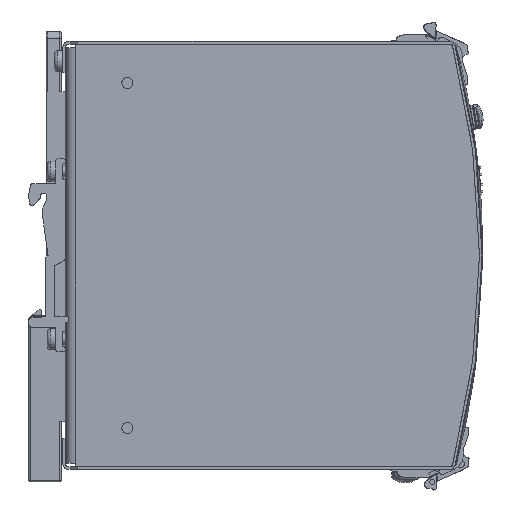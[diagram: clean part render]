
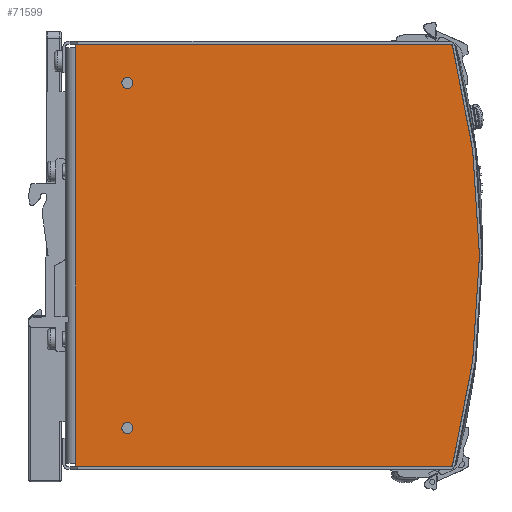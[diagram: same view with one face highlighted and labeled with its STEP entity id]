
A CAD part, front view. The second image highlights one B-rep face of the part: STEP entity #71599.
In plain terms, the highlighted planar face has unit normal (0, -1, 0).
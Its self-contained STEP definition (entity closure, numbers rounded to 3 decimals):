
#1791=FACE_BOUND('',#9002,.T.);
#1792=FACE_BOUND('',#9003,.T.);
#2463=PLANE('',#75574);
#5115=FACE_OUTER_BOUND('',#9001,.T.);
#9001=EDGE_LOOP('',(#48670,#48671,#48672,#48673,#48674,#48675));
#9002=EDGE_LOOP('',(#48676));
#9003=EDGE_LOOP('',(#48677));
#13512=CIRCLE('',#75551,1.6);
#13514=CIRCLE('',#75554,1.6);
#13515=CIRCLE('',#75565,240.);
#15336=LINE('',#100584,#23060);
#15360=LINE('',#100661,#23084);
#15369=LINE('',#100677,#23093);
#15373=LINE('',#100686,#23097);
#15381=LINE('',#100701,#23105);
#23060=VECTOR('',#81312,120.3);
#23084=VECTOR('',#81390,1.);
#23093=VECTOR('',#81405,1.);
#23097=VECTOR('',#81413,109.079);
#23105=VECTOR('',#81425,109.079);
#30787=VERTEX_POINT('',#100581);
#30788=VERTEX_POINT('',#100583);
#30810=VERTEX_POINT('',#100647);
#30812=VERTEX_POINT('',#100652);
#30814=VERTEX_POINT('',#100660);
#30818=VERTEX_POINT('',#100675);
#30821=VERTEX_POINT('',#100685);
#30826=VERTEX_POINT('',#100699);
#37884=EDGE_CURVE('',#30788,#30787,#15336,.T.);
#37915=EDGE_CURVE('',#30810,#30810,#13512,.T.);
#37917=EDGE_CURVE('',#30812,#30812,#13514,.T.);
#37921=EDGE_CURVE('',#30814,#30788,#15360,.T.);
#37930=EDGE_CURVE('',#30787,#30818,#15369,.T.);
#37934=EDGE_CURVE('',#30821,#30814,#15373,.T.);
#37942=EDGE_CURVE('',#30826,#30818,#15381,.T.);
#37943=EDGE_CURVE('',#30826,#30821,#13515,.T.);
#48670=ORIENTED_EDGE('',*,*,#37943,.T.);
#48671=ORIENTED_EDGE('',*,*,#37934,.T.);
#48672=ORIENTED_EDGE('',*,*,#37921,.T.);
#48673=ORIENTED_EDGE('',*,*,#37884,.T.);
#48674=ORIENTED_EDGE('',*,*,#37930,.T.);
#48675=ORIENTED_EDGE('',*,*,#37942,.F.);
#48676=ORIENTED_EDGE('',*,*,#37915,.T.);
#48677=ORIENTED_EDGE('',*,*,#37917,.T.);
#71599=ADVANCED_FACE('',(#5115,#1791,#1792),#2463,.T.);
#75551=AXIS2_PLACEMENT_3D('',#100648,#81375,#81376);
#75554=AXIS2_PLACEMENT_3D('',#100653,#81381,#81382);
#75565=AXIS2_PLACEMENT_3D('',#100703,#81428,#81429);
#75574=AXIS2_PLACEMENT_3D('',#100717,#81449,#81450);
#81312=DIRECTION('',(0.,0.,-1.));
#81375=DIRECTION('center_axis',(0.,1.,0.));
#81376=DIRECTION('ref_axis',(1.,0.,0.));
#81381=DIRECTION('center_axis',(0.,1.,0.));
#81382=DIRECTION('ref_axis',(1.,0.,0.));
#81390=DIRECTION('',(0.,0.,-1.));
#81405=DIRECTION('',(0.,0.,-1.));
#81413=DIRECTION('',(-1.,0.,0.));
#81425=DIRECTION('',(-1.,0.,0.));
#81428=DIRECTION('center_axis',(0.,-1.,0.));
#81429=DIRECTION('ref_axis',(-0.967,0.,-0.255));
#81449=DIRECTION('center_axis',(0.,-1.,0.));
#81450=DIRECTION('ref_axis',(0.,0.,-1.));
#100581=CARTESIAN_POINT('',(3.,-24.,-60.15));
#100583=CARTESIAN_POINT('',(3.,-24.,60.15));
#100584=CARTESIAN_POINT('',(3.,-24.,-61.15));
#100647=CARTESIAN_POINT('',(19.6,-24.,-50.));
#100648=CARTESIAN_POINT('Origin',(18.,-24.,-50.));
#100652=CARTESIAN_POINT('',(19.6,-24.,50.));
#100653=CARTESIAN_POINT('Origin',(18.,-24.,50.));
#100660=CARTESIAN_POINT('',(3.,-24.,61.15));
#100661=CARTESIAN_POINT('',(3.,-24.,-61.15));
#100675=CARTESIAN_POINT('',(3.,-24.,-61.15));
#100677=CARTESIAN_POINT('',(3.,-24.,-61.15));
#100685=CARTESIAN_POINT('',(112.079,-24.,61.15));
#100686=CARTESIAN_POINT('',(130.,-24.,61.15));
#100699=CARTESIAN_POINT('',(112.079,-24.,-61.15));
#100701=CARTESIAN_POINT('',(130.,-24.,-61.15));
#100703=CARTESIAN_POINT('Origin',(-120.,-24.,0.));
#100717=CARTESIAN_POINT('Origin',(130.,-24.,-61.15));
